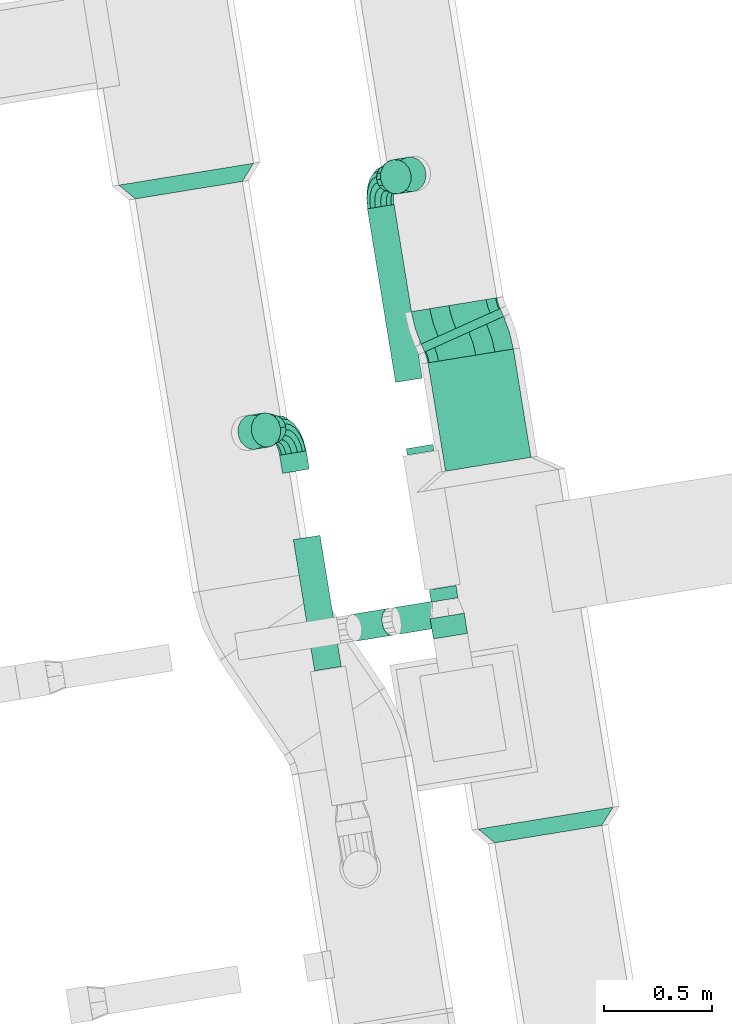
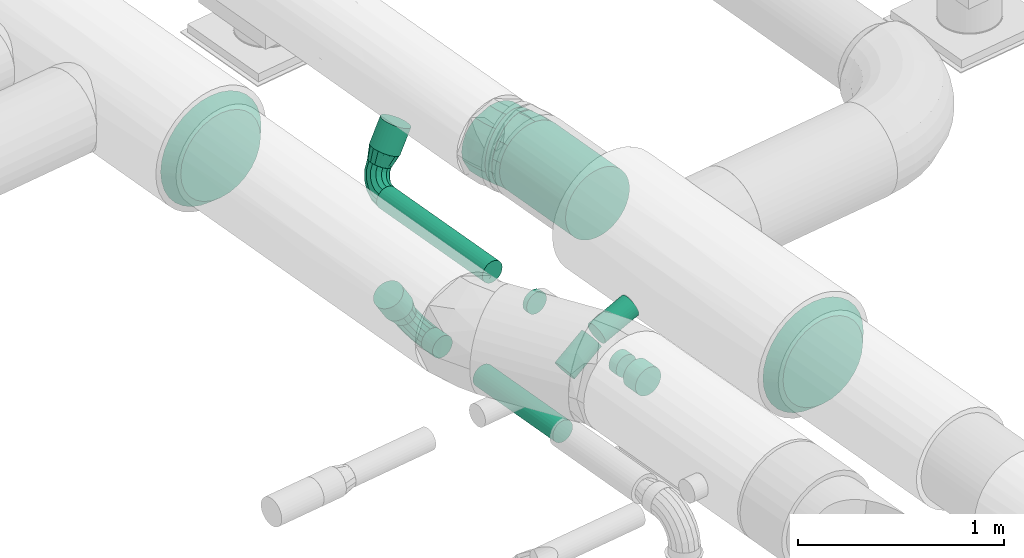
# One storey, part 17 of 39: 12 flow segments, 8 flow fittings.
"""IFC2X3 building model written with IfcOpenShell, lengths in millimetres."""

from ifc_helpers import new_model, entity, si_unit, converted_unit, derived_unit, direction, frame, frame_2d, origin, origin_with_axes, origin_2d_with_axis, place, context, subcontext, project, spatial, circle, extrude, faceted_brep, source, transform, mapped, material, type_object, element, save


model = new_model("IFC2X3")

# Units and contexts
plan_context = context("Plan", 3, precision=1e-05, world=origin_with_axes())
model_context = context("Model", 3, precision=0.01, world=origin(), true_north=direction((6.12323399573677e-17, 1.0)))
body_context = subcontext(model_context, "Body", "Model", "MODEL_VIEW")
ifc_project = project(units=[converted_unit("PLANEANGLEUNIT", "DEGREE", entity("IfcPositiveLengthMeasure", 0.0174532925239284), si_unit("PLANEANGLEUNIT", "RADIAN"), dimensions=[0, 0, 0, 0, 0, 0, 0]), si_unit("AREAUNIT", "SQUARE_METRE"), si_unit("LENGTHUNIT", "METRE", prefix="MILLI"), si_unit("MASSUNIT", "GRAM", prefix="KILO"), si_unit("POWERUNIT", "WATT"), si_unit("PRESSUREUNIT", "PASCAL", prefix="KILO"), si_unit("FORCEUNIT", "NEWTON", prefix="KILO"), si_unit("ELECTRICVOLTAGEUNIT", "VOLT"), si_unit("ELECTRICCURRENTUNIT", "AMPERE"), si_unit("THERMODYNAMICTEMPERATUREUNIT", "DEGREE_CELSIUS"), si_unit("TIMEUNIT", "SECOND"), si_unit("VOLUMEUNIT", "CUBIC_METRE"), derived_unit("LINEARVELOCITYUNIT", [(si_unit("LENGTHUNIT", "METRE"), 1), (si_unit("TIMEUNIT", "SECOND"), -1)]), derived_unit("VOLUMETRICFLOWRATEUNIT", [(si_unit("VOLUMEUNIT", "CUBIC_METRE"), 1), (si_unit("TIMEUNIT", "SECOND"), -1)]), derived_unit("THERMALTRANSMITTANCEUNIT", [(si_unit("POWERUNIT", "WATT"), 1), (si_unit("THERMODYNAMICTEMPERATUREUNIT", "KELVIN"), -1), (si_unit("AREAUNIT", "SQUARE_METRE"), -1)]), derived_unit("SOUNDPRESSUREUNIT", [(si_unit("PRESSUREUNIT", "PASCAL"), 1)])], contexts=[model_context, plan_context])

# Site, building, storey
site_placement = place(None, frame((-0.00071070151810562, 0.00438415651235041, 0.0), z_axis=(0.0, 0.0, 1.0), x_axis=(-0.160236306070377, 0.987078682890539, 0.0)))
site = spatial("IfcSite", under=ifc_project, at=site_placement, Name="Default", CompositionType="ELEMENT")
building_placement = place(site_placement, origin_with_axes())
building = spatial("IfcBuilding", under=site, at=building_placement, CompositionType="ELEMENT")
storey_placement = place(building_placement, frame((0.0, 0.0, 58999.9999999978), z_axis=(0.0, 0.0, 1.0), x_axis=(1.0, 0.0, 0.0)))
storey = spatial("IfcBuildingStorey", under=building, at=storey_placement, Name="Nivå F", CompositionType="ELEMENT", Elevation=58999.9999999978)

# Flow fittings
ifc_material_1 = material(Name="Material_Duct")
duct_fitting_type_1 = type_object("IfcDuctFittingType", Name="magicirc_reduction_001:magicirc_reduction_001", PredefinedType="NOTDEFINED", material=ifc_material_1)
shared_shape_1 = source(origin(), body_context, "Body", "Brep", [
    faceted_brep([(75.0, -120.545281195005, 291.022052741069), (75.0, -175.004623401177, 261.912927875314), (75.0, -222.738636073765, 222.738636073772), (75.0, -261.912927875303, 175.004623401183), (75.0, -291.022052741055, 120.54528119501), (75.0, -308.947363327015, 61.4534514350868), (75.0, -315.0, 0.0), (75.0, -308.947363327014, -61.4534514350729), (75.0, -291.02205274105, -120.545281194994), (75.0, -261.912927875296, -175.004623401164), (75.0, -222.738636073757, -222.73863607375), (75.0, -175.00462340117, -261.912927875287), (75.0, -120.545281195, -291.022052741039), (75.0, -61.4534514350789, -308.947363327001), (75.0, 0.0, -315.0), (75.0, 61.4534514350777, -308.947363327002), (75.0, 120.545281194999, -291.022052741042), (75.0, 175.00462340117, -261.912927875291), (75.0, 222.738636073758, -222.738636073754), (75.0, 261.912927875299, -175.004623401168), (75.0, 291.022052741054, -120.545281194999), (75.0, 308.947363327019, -61.4534514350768), (75.0, 315.0, 0.0), (75.0, 308.947363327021, 61.4534514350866), (75.0, 291.02205274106, 120.545281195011), (75.0, 261.912927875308, 175.004623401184), (75.0, 222.738636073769, 222.738636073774), (75.0, 175.004623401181, 261.912927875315), (75.0, 120.545281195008, 291.02205274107), (75.0, 61.4534514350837, 308.947363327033), (75.0, 0.0, 315.0), (75.0, -61.4534514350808, 308.947363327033), (0.0, 243.731978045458, 55.6302334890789), (0.0, 250.0, 0.0), (0.0, 243.731978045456, -55.6302334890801), (0.0, 225.242216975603, -108.47093477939), (0.0, 195.457870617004, -155.872450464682), (0.0, 155.872450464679, -195.457870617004), (0.0, 108.470934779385, -225.242216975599), (0.0, 55.6302334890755, -243.731978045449), (0.0, 0.0, -250.0), (0.0, -55.6302334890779, -243.731978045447), (0.0, -108.470934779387, -225.242216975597), (0.0, -155.87245046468, -195.457870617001), (0.0, -195.457870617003, -155.872450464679), (0.0, -225.242216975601, -108.470934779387), (0.0, -243.731978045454, -55.6302334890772), (0.0, -250.0, 0.0), (0.0, -243.731978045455, 55.630233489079), (0.0, -225.242216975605, 108.470934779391), (0.0, -195.457870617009, 155.872450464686), (0.0, -155.872450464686, 195.457870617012), (0.0, -108.470934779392, 225.242216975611), (0.0, -55.6302334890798, 243.731978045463), (0.0, 0.0, 250.0), (0.0, 55.6302334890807, 243.731978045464), (0.0, 108.470934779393, 225.242216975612), (0.0, 155.872450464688, 195.457870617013), (0.0, 195.457870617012, 155.872450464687), (0.0, 225.242216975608, 108.470934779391)], [[[0, 1, 2, 3, 4, 5, 6, 7, 8, 9, 10, 11, 12, 13, 14, 15, 16, 17, 18, 19, 20, 21, 22, 23, 24, 25, 26, 27, 28, 29, 30, 31]], [[32, 33, 34, 35, 36, 37, 38, 39, 40, 41, 42, 43, 44, 45, 46, 47, 48, 49, 50, 51, 52, 53, 54, 55, 56, 57, 58, 59]], [[46, 7, 47]], [[8, 46, 45]], [[45, 44, 9]], [[11, 43, 42]], [[42, 41, 12]], [[40, 13, 41]], [[44, 43, 10]], [[13, 40, 14]], [[9, 8, 45]], [[8, 7, 46]], [[7, 6, 47]], [[12, 11, 42]], [[10, 43, 11]], [[10, 9, 44]], [[12, 41, 13]], [[39, 38, 16]], [[15, 40, 39]], [[37, 17, 38]], [[35, 34, 20]], [[19, 36, 35]], [[18, 37, 36]], [[21, 34, 33]], [[15, 39, 16]], [[16, 38, 17]], [[18, 17, 37]], [[36, 19, 18]], [[35, 20, 19]], [[21, 20, 34]], [[33, 22, 21]], [[40, 15, 14]], [[32, 23, 33]], [[24, 32, 59]], [[59, 58, 25]], [[27, 57, 56]], [[56, 55, 28]], [[54, 29, 55]], [[58, 57, 26]], [[29, 54, 30]], [[25, 24, 59]], [[24, 23, 32]], [[23, 22, 33]], [[28, 27, 56]], [[26, 57, 27]], [[26, 25, 58]], [[28, 55, 29]], [[53, 52, 0]], [[31, 54, 53]], [[51, 1, 52]], [[49, 48, 4]], [[3, 50, 49]], [[2, 51, 50]], [[5, 48, 47]], [[31, 53, 0]], [[0, 52, 1]], [[2, 1, 51]], [[50, 3, 2]], [[49, 4, 3]], [[5, 4, 48]], [[47, 6, 5]], [[54, 31, 30]]]),
])
for number, where, z_axis, x_axis, name in (
    (1, (775248.610474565, -502178.834705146, 3130.03415297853), (0.0, 0.0, 1.0), (1.0, 0.0, 0.0), "magicirc_reduction_001:magicirc_reduction_001"),
    (2, (772049.369644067, -503340.008615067, 3129.99954147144), (0.0, 0.0, 1.0), (1.0, 0.0, 0.0), "magicirc_reduction_001:magicirc_reduction_001"),
):
    element("IfcFlowFitting", number, at=place(storey_placement, frame(where, z_axis=z_axis, x_axis=x_axis)), inside=storey, type_object=duct_fitting_type_1, material=ifc_material_1, Name=name, ObjectType="magicirc_reduction_001:magicirc_reduction_001", context=body_context, shape_type="MappedRepresentation", body=[
        mapped(shared_shape_1, transform((0.0, 0.0, 0.0), scale=1.0)),
    ])
ifc_material_2 = material(Name="<Unnamed>")
duct_fitting_type_2 = type_object("IfcDuctFittingType", Name="magicirc_elbow_full_radius_1:magicirc_elbow_full_radius_001", PredefinedType="NOTDEFINED", material=ifc_material_2)
shared_shape_2 = source(origin(), body_context, "Body", "Brep", [
    faceted_brep([(25.6547162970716, -194.866916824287, 0.0), (24.8961455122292, -189.104999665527, 47.8631328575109), (-52.6609990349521, -194.188363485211, 47.8631328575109), (-52.6609990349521, -200.0, 0.0), (22.6645185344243, -172.154109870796, 92.9446344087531), (-52.6609990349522, -177.091205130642, 92.9446344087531), (19.0895294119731, -144.999371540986, 132.624531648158), (-52.6609990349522, -149.702149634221, 132.624531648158), (14.3789435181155, -109.218919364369, 164.596773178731), (-52.6609990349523, -113.612949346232, 164.596773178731), (2.69611663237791, -20.4790389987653, 198.541774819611), (-52.6609990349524, -24.1073360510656, 198.541774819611), (-3.59716092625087, 27.3231498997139, 198.541774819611), (-52.6609990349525, 24.1073360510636, 198.541774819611), (-9.70756727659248, 73.7362940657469, 187.003248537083), (-52.6609990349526, 70.9209774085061, 187.003248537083), (-15.2799878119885, 116.063030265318, 164.596773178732), (-52.6609990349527, 113.61294934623, 164.596773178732), (-19.9905737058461, 151.843482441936, 132.62453164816), (-52.6609990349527, 149.702149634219, 132.62453164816), (-25.7971898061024, 195.949110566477, 47.8631328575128), (-52.6609990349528, 194.18836348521, 47.8631328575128), (-26.5557605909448, 201.711027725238, 0.0), (-52.6609990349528, 200.0, 0.0), (-25.7971898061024, 195.949110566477, -47.8631328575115), (-52.6609990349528, 194.18836348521, -47.8631328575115), (-23.5655628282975, 178.998220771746, -92.9446344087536), (-52.6609990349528, 177.091205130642, -92.9446344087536), (-19.9905737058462, 151.843482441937, -132.624531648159), (-52.6609990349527, 149.70214963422, -132.624531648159), (-15.2799878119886, 116.06303026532, -164.596773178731), (-52.6609990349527, 113.612949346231, -164.596773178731), (-3.59716092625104, 27.3231498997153, -198.541774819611), (-52.6609990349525, 24.1073360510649, -198.541774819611), (2.69611663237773, -20.479038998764, -198.541774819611), (-52.6609990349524, -24.1073360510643, -198.541774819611), (8.80652298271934, -66.8921831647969, -187.003248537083), (-52.6609990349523, -70.9209774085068, -187.003248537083), (14.3789435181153, -109.218919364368, -164.596773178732), (-52.6609990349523, -113.612949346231, -164.596773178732), (19.0895294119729, -144.999371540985, -132.624531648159), (-52.6609990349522, -149.70214963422, -132.624531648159), (24.8961455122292, -189.104999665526, -47.8631328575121), (-52.6609990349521, -194.18836348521, -47.8631328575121), (102.630428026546, -179.555495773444, 0.0), (101.126265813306, -173.941885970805, 47.8631328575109), (96.7011956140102, -157.427299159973, 92.9446344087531), (89.612386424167, -130.971503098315, 132.624531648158), (80.2718140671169, -96.1120124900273, 164.596773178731), (57.1060567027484, -9.65622901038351, 198.541774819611), (44.6271813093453, 36.9155679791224, 198.541774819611), (32.5109193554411, 82.1340731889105, 187.003248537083), (21.4614239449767, 123.371351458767, 164.596773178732), (12.1208515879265, 158.230842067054, 132.62453164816), (0.6069721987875, 201.201224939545, 47.8631328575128), (-0.897190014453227, 206.814834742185, 0.0), (0.606972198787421, 201.201224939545, -47.8631328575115), (5.03204239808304, 184.686638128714, -92.9446344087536), (12.1208515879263, 158.230842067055, -132.624531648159), (21.4614239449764, 123.371351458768, -164.596773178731), (44.6271813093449, 36.9155679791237, -198.541774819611), (57.1060567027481, -9.65622901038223, -198.541774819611), (69.2223186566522, -54.8747342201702, -187.003248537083), (80.2718140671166, -96.1120124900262, -164.596773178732), (89.6123864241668, -130.971503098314, -132.624531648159), (101.126265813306, -173.941885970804, -47.8631328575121)], [[[0, 1, 2, 3]], [[1, 4, 5, 2]], [[4, 6, 7, 5]], [[6, 8, 9, 7]], [[8, 10, 11, 9]], [[10, 12, 13, 11]], [[12, 14, 15, 13]], [[14, 16, 17, 15]], [[16, 18, 19, 17]], [[18, 20, 21, 19]], [[20, 22, 23, 21]], [[22, 24, 25, 23]], [[24, 26, 27, 25]], [[26, 28, 29, 27]], [[28, 30, 31, 29]], [[30, 32, 33, 31]], [[32, 34, 35, 33]], [[34, 36, 37, 35]], [[36, 38, 39, 37]], [[38, 40, 41, 39]], [[40, 42, 43, 41]], [[42, 0, 3, 43]], [[44, 45, 1, 0]], [[45, 46, 4, 1]], [[46, 47, 6, 4]], [[47, 48, 8, 6]], [[48, 49, 10, 8]], [[49, 50, 12, 10]], [[50, 51, 14, 12]], [[51, 52, 16, 14]], [[52, 53, 18, 16]], [[53, 54, 20, 18]], [[54, 55, 22, 20]], [[55, 56, 24, 22]], [[56, 57, 26, 24]], [[57, 58, 28, 26]], [[58, 59, 30, 28]], [[59, 60, 32, 30]], [[60, 61, 34, 32]], [[61, 62, 36, 34]], [[62, 63, 38, 36]], [[63, 64, 40, 38]], [[64, 65, 42, 40]], [[65, 44, 0, 42]], [[3, 2, 5, 7, 9, 11, 13, 15, 17, 19, 21, 23, 25, 27, 29, 31, 33, 35, 37, 39, 41, 43]], [[65, 64, 63, 62, 61, 60, 59, 58, 57, 56, 55, 54, 53, 52, 51, 50, 49, 48, 47, 46, 45, 44]]]),
])
for number, where, z_axis, x_axis, name in (
    (3, (774337.925049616, -503340.008615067, 3130.0), (0.0, 0.0, 1.0), (1.0, 0.0, 0.0), "magicirc_elbow_full_radius_1:magicirc_elbow_full_radius_001"),
    (4, (774478.4207652, -503302.362901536, 3130.0), (0.0, 0.0, 1.0), (-1.0, 0.0, 0.0), "magicirc_elbow_full_radius_1:magicirc_elbow_full_radius_001"),
):
    element("IfcFlowFitting", number, at=place(storey_placement, frame(where, z_axis=z_axis, x_axis=x_axis)), inside=storey, type_object=duct_fitting_type_2, material=ifc_material_2, Name=name, ObjectType="magicirc_elbow_full_radius_1:magicirc_elbow_full_radius_001", context=body_context, shape_type="MappedRepresentation", body=[
        mapped(shared_shape_2, transform((0.0, 0.0, 0.0), scale=1.0)),
    ])
duct_fitting_type_3 = type_object("IfcDuctFittingType", Name="magicirc_elbow_full_radius_1:magicirc_elbow_full_radius_001", PredefinedType="NOTDEFINED", material=ifc_material_2)
shared_shape_3 = source(origin(), body_context, "Body", "Brep", [
    faceted_brep([(-67.059313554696, -53.3230968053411, 0.0), (-68.9719574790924, -47.4365840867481, 27.1177336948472), (-125.0, -56.3105542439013, 27.1177336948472), (-125.0, -62.5, 0.0), (-74.3310666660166, -30.9429419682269, 48.8644676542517), (-125.0, -38.968112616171, 48.8644676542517), (-82.0752038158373, -7.10893855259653, 60.9329945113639), (-125.0, -13.9075583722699, 60.9329945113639), (-90.6705475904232, 19.3448094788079, 60.932994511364), (-125.0, 13.9075583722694, 60.932994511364), (-98.4146847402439, 43.1788128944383, 48.8644676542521), (-125.0, 38.9681126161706, 48.8644676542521), (-103.773793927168, 59.6724550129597, 27.1177336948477), (-125.0, 56.3105542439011, 27.1177336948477), (-105.686437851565, 65.558967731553, 0.0), (-125.0, 62.5, 0.0), (-103.773793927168, 59.6724550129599, -27.1177336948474), (-125.0, 56.3105542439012, -27.1177336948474), (-98.414684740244, 43.1788128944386, -48.8644676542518), (-125.0, 38.9681126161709, -48.8644676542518), (-90.6705475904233, 19.3448094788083, -60.932994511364), (-125.0, 13.9075583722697, -60.932994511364), (-82.0752038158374, -7.10893855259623, -60.932994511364), (-125.0, -13.9075583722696, -60.932994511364), (-74.3310666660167, -30.9429419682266, -48.8644676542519), (-125.0, -38.9681126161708, -48.8644676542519), (-68.9719574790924, -47.4365840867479, -27.1177336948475), (-125.0, -56.3105542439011, -27.1177336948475), (-14.7902651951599, -26.6906864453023, 0.0), (-18.428330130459, -21.6833196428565, 27.1177336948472), (-28.6219615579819, -7.65298964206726, 48.8644676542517), (-43.3521857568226, 12.621424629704, 60.9329945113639), (-59.7015011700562, 35.1243267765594, 60.932994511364), (-74.4317253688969, 55.3987410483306, 48.8644676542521), (-84.62535679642, 69.4290710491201, 27.1177336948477), (-88.2634217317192, 74.436437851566, 0.0), (-84.6253567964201, 69.4290710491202, -27.1177336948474), (-74.4317253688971, 55.3987410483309, -48.8644676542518), (-59.7015011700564, 35.1243267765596, -60.932994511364), (-43.3521857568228, 12.6214246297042, -60.932994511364), (-28.6219615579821, -7.65298964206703, -48.8644676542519), (-18.4283301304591, -21.6833196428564, -27.1177336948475), (26.6906864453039, 14.7902651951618, 0.0), (21.6833196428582, 18.4283301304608, 27.1177336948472), (7.65298964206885, 28.6219615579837, 48.8644676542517), (-12.6214246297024, 43.3521857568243, 60.9329945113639), (-35.1243267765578, 59.7015011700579, 60.932994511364), (-55.3987410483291, 74.4317253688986, 48.8644676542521), (-69.4290710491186, 84.6253567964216, 27.1177336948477), (-74.4364378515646, 88.2634217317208, 0.0), (-69.4290710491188, 84.6253567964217, -27.1177336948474), (-55.3987410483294, 74.4317253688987, -48.8644676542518), (-35.1243267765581, 59.7015011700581, -60.932994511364), (-12.6214246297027, 43.3521857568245, -60.932994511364), (7.65298964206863, 28.6219615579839, -48.8644676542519), (21.6833196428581, 18.4283301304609, -27.1177336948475), (53.3230968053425, 67.0593135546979, 0.0), (47.4365840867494, 68.9719574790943, 27.1177336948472), (30.9429419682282, 74.3310666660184, 48.8644676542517), (7.10893855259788, 82.0752038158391, 60.9329945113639), (-19.3448094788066, 90.6705475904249, 60.932994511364), (-43.178812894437, 98.4146847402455, 48.8644676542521), (-59.6724550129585, 103.77379392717, 27.1177336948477), (-65.5589677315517, 105.686437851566, 0.0), (-59.6724550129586, 103.77379392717, -27.1177336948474), (-43.1788128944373, 98.4146847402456, -48.8644676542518), (-19.344809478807, 90.670547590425, -60.932994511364), (7.10893855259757, 82.0752038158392, -60.932994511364), (30.942941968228, 74.3310666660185, -48.8644676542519), (47.4365840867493, 68.9719574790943, -27.1177336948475), (62.5000000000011, 125.0, 0.0), (56.3105542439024, 125.0, 27.1177336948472), (38.9681126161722, 125.0, 48.8644676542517), (13.907558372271, 125.0, 60.9329945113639), (-13.9075583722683, 125.0, 60.932994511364), (-38.9681126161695, 125.0, 48.8644676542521), (-56.3105542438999, 125.0, 27.1177336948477), (-62.4999999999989, 125.0, 0.0), (-56.3105542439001, 125.0, -27.1177336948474), (-38.9681126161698, 125.0, -48.8644676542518), (-13.9075583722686, 125.0, -60.932994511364), (13.9075583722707, 125.0, -60.932994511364), (38.9681126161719, 125.0, -48.8644676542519), (56.3105542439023, 125.0, -27.1177336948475)], [[[0, 1, 2, 3]], [[1, 4, 5, 2]], [[4, 6, 7, 5]], [[6, 8, 9, 7]], [[8, 10, 11, 9]], [[10, 12, 13, 11]], [[12, 14, 15, 13]], [[14, 16, 17, 15]], [[16, 18, 19, 17]], [[18, 20, 21, 19]], [[20, 22, 23, 21]], [[22, 24, 25, 23]], [[24, 26, 27, 25]], [[26, 0, 3, 27]], [[28, 29, 1, 0]], [[29, 30, 4, 1]], [[30, 31, 6, 4]], [[31, 32, 8, 6]], [[32, 33, 10, 8]], [[33, 34, 12, 10]], [[34, 35, 14, 12]], [[35, 36, 16, 14]], [[36, 37, 18, 16]], [[37, 38, 20, 18]], [[38, 39, 22, 20]], [[39, 40, 24, 22]], [[40, 41, 26, 24]], [[41, 28, 0, 26]], [[42, 43, 29, 28]], [[43, 44, 30, 29]], [[44, 45, 31, 30]], [[45, 46, 32, 31]], [[46, 47, 33, 32]], [[47, 48, 34, 33]], [[48, 49, 35, 34]], [[49, 50, 36, 35]], [[50, 51, 37, 36]], [[51, 52, 38, 37]], [[52, 53, 39, 38]], [[53, 54, 40, 39]], [[54, 55, 41, 40]], [[55, 42, 28, 41]], [[56, 57, 43, 42]], [[57, 58, 44, 43]], [[58, 59, 45, 44]], [[59, 60, 46, 45]], [[60, 61, 47, 46]], [[61, 62, 48, 47]], [[62, 63, 49, 48]], [[63, 64, 50, 49]], [[64, 65, 51, 50]], [[65, 66, 52, 51]], [[66, 67, 53, 52]], [[67, 68, 54, 53]], [[68, 69, 55, 54]], [[69, 56, 42, 55]], [[70, 71, 57, 56]], [[71, 72, 58, 57]], [[72, 73, 59, 58]], [[73, 74, 60, 59]], [[74, 75, 61, 60]], [[75, 76, 62, 61]], [[76, 77, 63, 62]], [[77, 78, 64, 63]], [[78, 79, 65, 64]], [[79, 80, 66, 65]], [[80, 81, 67, 66]], [[81, 82, 68, 67]], [[82, 83, 69, 68]], [[83, 70, 56, 69]], [[3, 2, 5, 7, 9, 11, 13, 15, 17, 19, 21, 23, 25, 27]], [[83, 82, 81, 80, 79, 78, 77, 76, 75, 74, 73, 72, 71, 70]]]),
])
for number, where, z_axis, x_axis, name in (
    (5, (774099.275908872, -502458.791014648, 2610.08152944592), (-6.22629739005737e-18, 0.848944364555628, -0.528482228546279), (0.0, -0.528482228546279, -0.848944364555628), "magicirc_elbow_full_radius_1:magicirc_elbow_full_radius_001"),
    (6, (775156.89142341, -503041.041788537, 2617.0), (0.0, 0.891056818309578, 0.453891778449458), (0.0, 0.453891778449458, -0.891056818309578), "magicirc_elbow_full_radius_1:magicirc_elbow_full_radius_001"),
):
    element("IfcFlowFitting", number, at=place(storey_placement, frame(where, z_axis=z_axis, x_axis=x_axis)), inside=storey, type_object=duct_fitting_type_3, material=ifc_material_2, Name=name, ObjectType="magicirc_elbow_full_radius_1:magicirc_elbow_full_radius_001", context=body_context, shape_type="MappedRepresentation", body=[
        mapped(shared_shape_3, transform((0.0, 0.0, 0.0), scale=1.0)),
    ])
duct_fitting_type_4 = type_object("IfcDuctFittingType", Name="magicirc_reduction_001:magicirc_reduction_001", PredefinedType="NOTDEFINED", material=ifc_material_1)
shared_shape_4 = source(origin(), body_context, "Body", "Brep", [
    faceted_brep([(75.0, -56.5685424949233, 56.5685424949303), (75.0, -65.2394525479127, 43.5916085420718), (75.0, -73.9103626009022, 30.6146745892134), (75.0, -76.9551813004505, 15.3073372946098), (75.0, -80.0, 0.0), (75.0, -76.9551813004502, -15.3073372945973), (75.0, -73.9103626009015, -30.6146745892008), (75.0, -65.239452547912, -43.5916085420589), (75.0, -56.5685424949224, -56.5685424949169), (75.0, -43.5916085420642, -65.2394525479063), (75.0, -30.6146745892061, -73.9103626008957), (75.0, -15.3073372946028, -76.9551813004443), (75.0, 0.0, -80.0), (75.0, 15.3073372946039, -76.9551813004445), (75.0, 30.6146745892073, -73.9103626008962), (75.0, 43.5916085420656, -65.2394525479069), (75.0, 56.5685424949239, -56.5685424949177), (75.0, 65.2394525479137, -43.5916085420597), (75.0, 73.9103626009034, -30.6146745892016), (75.0, 76.9551813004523, -15.3073372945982), (75.0, 80.0, 0.0), (75.0, 76.9551813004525, 15.3073372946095), (75.0, 73.9103626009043, 30.6146745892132), (75.0, 65.2394525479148, 43.5916085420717), (75.0, 56.5685424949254, 56.5685424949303), (75.0, 43.591608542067, 65.2394525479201), (75.0, 30.6146745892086, 73.9103626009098), (75.0, 15.3073372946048, 76.9551813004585), (75.0, 0.0, 80.0), (75.0, -15.3073372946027, 76.9551813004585), (75.0, -30.6146745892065, 73.9103626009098), (75.0, -43.5916085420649, 65.2394525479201), (0.0, 56.3105542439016, 27.1177336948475), (0.0, 59.4052771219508, 13.5588668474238), (0.0, 62.5000000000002, 0.0), (0.0, 59.4052771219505, -13.558866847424), (0.0, 56.3105542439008, -27.1177336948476), (0.0, 47.6393334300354, -37.9911006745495), (0.0, 38.9681126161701, -48.8644676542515), (0.0, 26.4378354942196, -54.8987310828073), (0.0, 13.9075583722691, -60.9329945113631), (0.0, 0.0, -60.932994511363), (0.0, -13.9075583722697, -60.9329945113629), (0.0, -26.4378354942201, -54.898731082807), (0.0, -38.9681126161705, -48.864467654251), (0.0, -47.6393334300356, -37.991100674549), (0.0, -56.3105542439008, -27.1177336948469), (0.0, -59.4052771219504, -13.5588668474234), (0.0, -62.4999999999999, 0.0), (0.0, -59.4052771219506, 13.558866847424), (0.0, -56.3105542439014, 27.1177336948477), (0.0, -47.6393334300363, 37.9911006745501), (0.0, -38.9681126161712, 48.8644676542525), (0.0, -26.4378354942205, 54.8987310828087), (0.0, -13.9075583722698, 60.9329945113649), (0.0, 0.0, 60.9329945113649), (0.0, 13.9075583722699, 60.9329945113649), (0.0, 26.4378354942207, 54.8987310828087), (0.0, 38.9681126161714, 48.8644676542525), (0.0, 47.6393334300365, 37.99110067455)], [[[0, 1, 2, 3, 4, 5, 6, 7, 8, 9, 10, 11, 12, 13, 14, 15, 16, 17, 18, 19, 20, 21, 22, 23, 24, 25, 26, 27, 28, 29, 30, 31]], [[32, 33, 34, 35, 36, 37, 38, 39, 40, 41, 42, 43, 44, 45, 46, 47, 48, 49, 50, 51, 52, 53, 54, 55, 56, 57, 58, 59]], [[46, 6, 47]], [[9, 43, 10]], [[7, 6, 46]], [[17, 16, 37]], [[40, 13, 41]], [[41, 11, 42]], [[38, 16, 15]], [[46, 45, 7]], [[48, 5, 4]], [[12, 41, 13]], [[43, 9, 44]], [[48, 47, 5]], [[10, 43, 42]], [[39, 38, 15]], [[34, 19, 35]], [[17, 36, 18]], [[40, 14, 13]], [[45, 8, 7]], [[45, 44, 8]], [[39, 14, 40]], [[39, 15, 14]], [[36, 17, 37]], [[47, 6, 5]], [[16, 38, 37]], [[35, 18, 36]], [[11, 10, 42]], [[19, 34, 20]], [[11, 41, 12]], [[19, 18, 35]], [[9, 8, 44]], [[32, 22, 33]], [[25, 57, 26]], [[23, 22, 32]], [[1, 0, 51]], [[54, 29, 55]], [[55, 27, 56]], [[52, 0, 31]], [[32, 59, 23]], [[34, 21, 20]], [[28, 55, 29]], [[57, 25, 58]], [[34, 33, 21]], [[26, 57, 56]], [[53, 52, 31]], [[48, 3, 49]], [[1, 50, 2]], [[54, 30, 29]], [[59, 24, 23]], [[59, 58, 24]], [[53, 30, 54]], [[53, 31, 30]], [[50, 1, 51]], [[33, 22, 21]], [[0, 52, 51]], [[49, 2, 50]], [[27, 26, 56]], [[3, 48, 4]], [[27, 55, 28]], [[3, 2, 49]], [[25, 24, 58]]]),
])
for number, where, z_axis, x_axis, name in (
    (7, (774099.275908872, -502392.73073608, 2716.19957501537), (6.22629739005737e-18, -0.848944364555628, 0.528482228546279), (0.0, 0.528482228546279, 0.848944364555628), "magicirc_reduction_001:magicirc_reduction_001"),
    (8, (775156.89142341, -503097.778260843, 2728.38210228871), (-1.0, 0.0, 0.0), (0.0, -0.453891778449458, 0.891056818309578), "magicirc_reduction_001:magicirc_reduction_001"),
):
    element("IfcFlowFitting", number, at=place(storey_placement, frame(where, z_axis=z_axis, x_axis=x_axis)), inside=storey, type_object=duct_fitting_type_4, material=ifc_material_1, Name=name, ObjectType="magicirc_reduction_001:magicirc_reduction_001", context=body_context, shape_type="MappedRepresentation", body=[
        mapped(shared_shape_4, transform((0.0, 0.0, 0.0), scale=1.0)),
    ])

# Flow segments
duct_segment_type = type_object("IfcDuctSegmentType", Name="Round Duct:KK001T - Spiro kanaler, Forsinket stål", PredefinedType="NOTDEFINED")
flow_segment_1_placement = place(storey_placement, origin_with_axes())
element("IfcFlowSegment", 9, at=flow_segment_1_placement, inside=storey, type_object=duct_segment_type, Name="Round Duct:KK001T - Spiro kanaler, Forsinket stål", ObjectType="Round Duct:KK001T - Spiro kanaler, Forsinket stål", context=body_context, shape_type="SweptSolid", body=[
    extrude(circle(Radius=62.5, at=origin_2d_with_axis()), frame((773889.259492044, -502458.791014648, 2610.0), z_axis=(0.999999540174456, 0.0, 0.000958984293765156), x_axis=(0.0, 1.0, 0.0)), (0.0, 0.0, 1.0), 85.0164559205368),
])
flow_segment_2_placement = place(storey_placement, origin_with_axes())
element("IfcFlowSegment", 10, at=flow_segment_2_placement, inside=storey, type_object=duct_segment_type, Name="Round Duct:KK001T - Spiro kanaler, Forsinket stål", ObjectType="Round Duct:KK001T - Spiro kanaler, Forsinket stål", context=body_context, shape_type="SweptSolid", body=[
    extrude(circle(Radius=62.5, at=origin_2d_with_axis()), frame((772966.478900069, -502458.791014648, 2610.0), z_axis=(1.0, 0.0, 0.0), x_axis=(0.0, 1.0, 0.0)), (0.0, 0.0, 1.0), 612.780591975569),
])
flow_segment_3_placement = place(storey_placement, origin_with_axes())
element("IfcFlowSegment", 11, at=flow_segment_3_placement, inside=storey, type_object=duct_segment_type, Name="Round Duct:KK001T - Spiro kanaler, Forsinket stål", ObjectType="Round Duct:KK001T - Spiro kanaler, Forsinket stål", context=body_context, shape_type="SweptSolid", body=[
    extrude(circle(Radius=200.0, at=origin_2d_with_axis()), frame((773778.610474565, -503340.008615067, 3130.0), z_axis=(1.0, 0.0, 0.0), x_axis=(0.0, -1.0, 0.0)), (0.0, 0.0, 1.0), 506.653576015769),
])
flow_segment_4_placement = place(storey_placement, origin_with_axes())
element("IfcFlowSegment", 12, at=flow_segment_4_placement, inside=storey, type_object=duct_segment_type, Name="Round Duct:KK001T - Spiro kanaler, Forsinket stål", ObjectType="Round Duct:KK001T - Spiro kanaler, Forsinket stål", context=body_context, shape_type="SweptSolid", body=[
    extrude(circle(Radius=200.0, at=origin_2d_with_axis()), frame((774388.791668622, -503326.378945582, 3130.0), z_axis=(0.965925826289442, 0.258819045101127, 0.0), x_axis=(0.258819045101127, -0.965925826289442, 0.0)), (0.0, 0.0, 1.0), 40.129869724),
])
flow_segment_5_placement = place(storey_placement, origin_with_axes())
element("IfcFlowSegment", 13, at=flow_segment_5_placement, inside=storey, type_object=duct_segment_type, Name="Round Duct:KK001T - Spiro kanaler, Forsinket stål", ObjectType="Round Duct:KK001T - Spiro kanaler, Forsinket stål", context=body_context, shape_type="SweptSolid", body=[
    extrude(circle(Radius=80.0, at=origin_2d_with_axis()), frame((775156.89142341, -503200.232370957, 2929.51470198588), z_axis=(0.0, 0.453891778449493, -0.89105681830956), x_axis=(0.0, -0.89105681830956, -0.453891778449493)), (0.0, 0.0, 1.0), 150.723652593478),
])
flow_segment_6_placement = place(storey_placement, origin_with_axes())
element("IfcFlowSegment", 14, at=flow_segment_6_placement, inside=storey, type_object=duct_segment_type, Name="Round Duct:KK001T - Spiro kanaler, Forsinket stål", ObjectType="Round Duct:KK001T - Spiro kanaler, Forsinket stål", context=body_context, shape_type="SweptSolid", body=[
    extrude(circle(Radius=80.0, at=origin_2d_with_axis()), frame((774099.275908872, -502353.094568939, 2779.87040235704), z_axis=(0.0, 0.528482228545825, 0.84894436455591), x_axis=(-1.0, 0.0, 0.0)), (0.0, 0.0, 1.0), 117.13368950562),
])
flow_segment_7_placement = place(storey_placement, origin_with_axes())
element("IfcFlowSegment", 15, at=flow_segment_7_placement, inside=storey, type_object=duct_segment_type, Name="Round Duct:KK001T - Spiro kanaler, Forsinket stål", ObjectType="Round Duct:KK001T - Spiro kanaler, Forsinket stål", context=body_context, shape_type="SweptSolid", body=[
    extrude(circle(Radius=80.0, at=frame_2d((3.93203589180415e-12, 7.71916911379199e-12), x_axis=(1.0, 0.0))), frame((773023.619644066, -503041.01455526, 2617.0), z_axis=(1.0, -5.84310301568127e-05, 0.0), x_axis=(5.20653678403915e-05, 0.891056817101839, 0.45389177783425)), (0.0, 0.0, 1.0), 94.4379235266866),
])
flow_segment_8_placement = place(storey_placement, origin_with_axes())
element("IfcFlowSegment", 16, at=flow_segment_8_placement, inside=storey, type_object=duct_segment_type, Name="Round Duct:KK001T - Spiro kanaler, Forsinket stål", ObjectType="Round Duct:KK001T - Spiro kanaler, Forsinket stål", context=body_context, shape_type="SweptSolid", body=[
    extrude(circle(Radius=62.5, at=frame_2d((-6.56853887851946e-11, 2.37371180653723e-11), x_axis=(1.0, 0.0))), frame((774220.119644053, -503041.038037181, 2617.0), z_axis=(1.0, -4.62119510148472e-06, 0.0), x_axis=(4.11774740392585e-06, 0.891056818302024, 0.453891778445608)), (0.0, 0.0, 1.0), 811.771779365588),
])
flow_segment_9_placement = place(storey_placement, origin_with_axes())
element("IfcFlowSegment", 17, at=flow_segment_9_placement, inside=storey, type_object=duct_segment_type, Name="Round Duct:KK001T - Spiro kanaler, Forsinket stål", ObjectType="Round Duct:KK001T - Spiro kanaler, Forsinket stål", context=body_context, shape_type="SweptSolid", body=[
    extrude(circle(Radius=62.5, at=frame_2d((0.0, -8.66293703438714e-12), x_axis=(1.0, 0.0))), frame((773193.057567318, -503041.02447808, 2617.0), z_axis=(1.0, -1.42989103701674e-05, 0.0), x_axis=(1.42989103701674e-05, 1.0, 0.0)), (0.0, 0.0, 1.0), 57.1418929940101),
])
flow_segment_10_placement = place(storey_placement, origin_with_axes())
element("IfcFlowSegment", 18, at=flow_segment_10_placement, inside=storey, type_object=duct_segment_type, Name="Round Duct:KK001T - Spiro kanaler, Forsinket stål", ObjectType="Round Duct:KK001T - Spiro kanaler, Forsinket stål", context=body_context, shape_type="SweptSolid", body=[
    extrude(circle(Radius=62.5, at=frame_2d((6.93034962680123e-11, 0.0), x_axis=(1.0, 0.0))), frame((773880.199460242, -503041.03430346, 2617.0), z_axis=(1.0, -1.42989189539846e-05, 0.0), x_axis=(1.42989189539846e-05, 1.0, 0.0)), (0.0, 0.0, 1.0), 29.9201838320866),
])
flow_segment_11_placement = place(storey_placement, origin_with_axes())
element("IfcFlowSegment", 19, at=flow_segment_11_placement, inside=storey, type_object=duct_segment_type, Name="Round Duct:KK001T - Spiro kanaler, Forsinket stål", ObjectType="Round Duct:KK001T - Spiro kanaler, Forsinket stål", context=body_context, shape_type="SweptSolid", body=[
    extrude(circle(Radius=62.5, at=frame_2d((7.06117355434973e-26, 7.09626258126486e-12), x_axis=(1.0, 0.0))), frame((773133.264064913, -502775.774425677, 2930.5974214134), z_axis=(0.0, 0.81915204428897, -0.573576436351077), x_axis=(1.0, 0.0, 0.0)), (0.0, 0.0, 1.0), 205.711775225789),
])
flow_segment_12_placement = place(storey_placement, origin_with_axes())
element("IfcFlowSegment", 20, at=flow_segment_12_placement, inside=storey, type_object=duct_segment_type, Name="Round Duct:KK001T - Spiro kanaler, Forsinket stål", ObjectType="Round Duct:KK001T - Spiro kanaler, Forsinket stål", context=body_context, shape_type="SweptSolid", body=[
    extrude(circle(Radius=62.5, at=frame_2d((-9.25258415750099e-26, -1.63819357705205e-11), x_axis=(1.0, 0.0))), frame((773133.264064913, -503018.532358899, 3019.30698510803), z_axis=(0.0, 0.94551857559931, -0.325568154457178), x_axis=(1.0, 0.0, 0.0)), (0.0, 0.0, 1.0), 223.958474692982),
])

save(model, "model.ifc")
